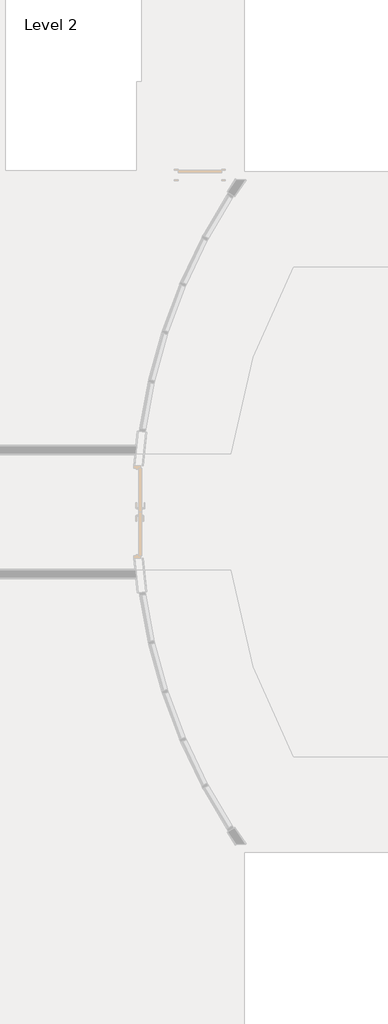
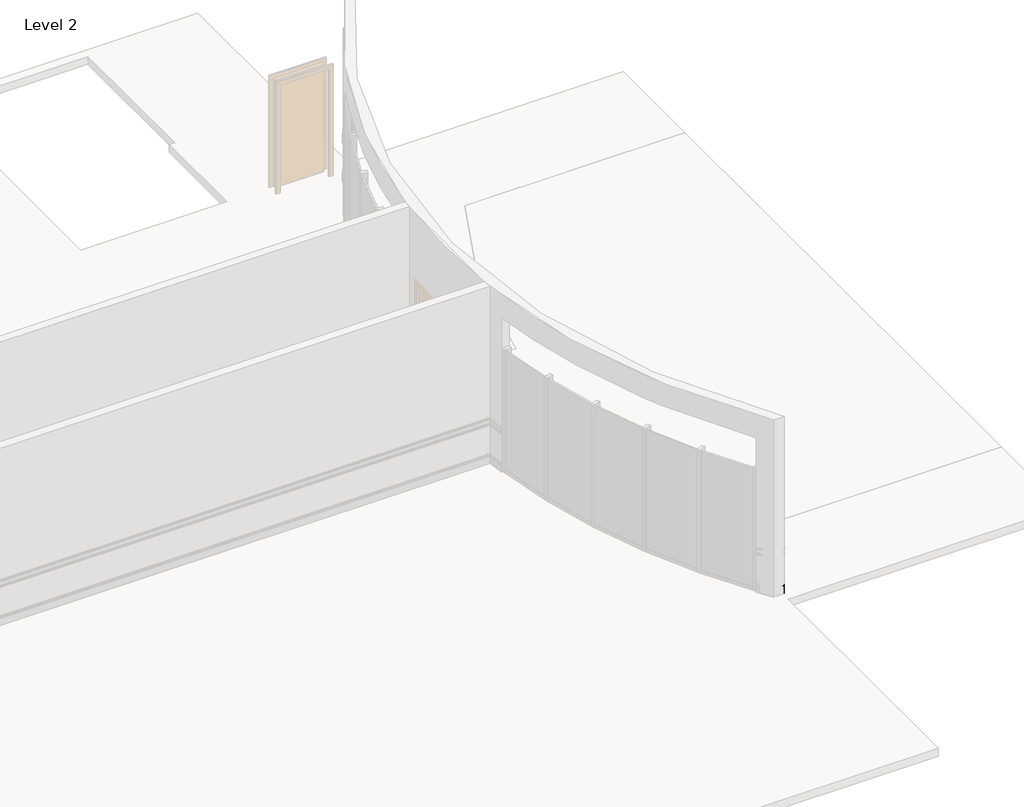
# One storey, part 8 of 14: 1 proxy.
"""IFC4 building model written with IfcOpenShell, lengths in millimetres."""

from ifc_helpers import new_model, si_unit, point, frame, origin, place, context, project, spatial, polyline, circle_curve, ellipse_curve, trimmed, element, save
from ifc_brep_helpers import plane_surface, cylinder_surface, revolved_surface, advanced_brep

model = new_model("IFC4")

# Units and contexts
model_context = context("Model", 3, world=origin())
ifc_project = project(units=[si_unit("LENGTHUNIT", "METRE", prefix="MILLI")], contexts=[model_context])

# Site, building, storey
site = spatial("IfcSite", under=ifc_project)
building = spatial("IfcBuilding", under=site)
storey = spatial("IfcBuildingStorey", under=building, Name="Level 2", Elevation=3657.6)

# Proxy
placement = place(None, origin())
element("IfcBuildingElementProxy", 1, Name="Wall Sweeps", at=placement, inside=storey, context=model_context, shape_type="AdvancedBrep", body=[
    advanced_brep(
    [(12911.1456613, 4447.8405035, 3803.65), (12911.1456613, 4447.8405035, 3657.6), (12898.1548084, 4456.9648319, 3657.6), (12898.1548084, 4456.9648319, 3683.0), (12899.4538937, 4456.0523991, 3684.5875), (12899.4538937, 4456.0523991, 3795.7125), (12898.1548084, 4456.9648319, 3797.3), (12898.1548084, 4456.9648319, 3841.75), (12903.3511495, 4453.3151006, 3841.75), (12905.3528084, 4451.9092042, 3836.0425393), (12904.2296039, 4452.6981044, 3827.5015472), (12909.8279805, 4448.7659971, 3817.4244174), (12909.0132543, 4449.3382328, 3805.438329), (12909.3500389, 4449.1016869, 3804.1164076), (12676.4060533, 4101.016326, 3803.65), (12674.5678562, 4102.214606, 3804.1164076), (12674.2230864, 4102.4393538, 3805.438329), (12675.05713, 4101.8956592, 3817.4244174), (12669.3260143, 4105.6316465, 3827.5015472), (12670.4758502, 4104.8820939, 3836.0425393), (12668.4267315, 4106.217869, 3841.75), (12663.1071836, 4109.6855643, 3841.75), (12663.1071836, 4109.6855643, 3797.3), (12664.4370706, 4108.8186405, 3795.7125), (12664.4370706, 4108.8186405, 3684.5875), (12663.1071836, 4109.6855643, 3683.0), (12663.1071836, 4109.6855643, 3657.6), (12676.4060533, 4101.016326, 3657.6)],
    [
        (0, 1),
        (1, 2),
        (2, 3),
        (3, 4),
        (4, 5),
        (5, 6),
        (6, 7),
        (7, 8),
        (8, 9),
        (9, 10, circle_curve(frame((12908.5474906, 4449.6653692, 3831.034375), z_axis=(-0.5747608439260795, -0.81832143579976, 0.0), x_axis=(0.81832143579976, -0.5747608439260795, 0.0)), 6.35)),
        (10, 11),
        (11, 12, circle_curve(frame((12903.3511495, 4453.3151006, 3812.047453), z_axis=(0.5747608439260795, 0.81832143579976, 0.0), x_axis=(0.81832143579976, -0.5747608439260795, 0.0)), 9.5684601)),
        (12, 13, circle_curve(frame((12909.4850864, 4449.0068342, 3804.8928122), z_axis=(-0.5747608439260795, -0.81832143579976, 0.0), x_axis=(0.81832143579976, -0.5747608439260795, 0.0)), 0.79375)),
        (13, 0),
        (14, 15),
        (15, 16, circle_curve(frame((12674.7061057, 4102.1244842, 3804.8928122), z_axis=(0.5460937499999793, 0.8377240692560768, 0.0), x_axis=(0.8377240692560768, -0.5460937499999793, 0.0)), 0.79375)),
        (16, 17, circle_curve(frame((12668.4267315, 4106.217869, 3812.047453), z_axis=(-0.5460937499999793, -0.8377240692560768, 0.0), x_axis=(0.8377240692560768, -0.5460937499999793, 0.0)), 9.5684601)),
        (17, 18),
        (18, 19, circle_curve(frame((12673.7462793, 4102.7501737, 3831.034375), z_axis=(0.5460937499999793, 0.8377240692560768, 0.0), x_axis=(0.8377240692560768, -0.5460937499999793, 0.0)), 6.35)),
        (19, 20),
        (20, 21),
        (21, 22),
        (22, 23),
        (23, 24),
        (24, 25),
        (25, 26),
        (26, 27),
        (27, 14),
        (27, 1, circle_curve(frame((22811.474575, -2505.8101681, 3657.6), z_axis=(0.0, 0.0, -1.0), x_axis=(-0.8183214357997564, 0.5747608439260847, 0.0)), 12098.3374999)),
        (0, 14, circle_curve(frame((22811.474575, -2505.8101681, 3803.65), z_axis=(0.0, 0.0, 1.0), x_axis=(-0.8183214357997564, 0.5747608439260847, 0.0)), 12098.3374999)),
        (26, 2, circle_curve(frame((22811.474575, -2505.8101681, 3657.6), z_axis=(0.0, 0.0, -1.0), x_axis=(-0.8183214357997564, 0.5747608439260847, 0.0)), 12114.2125)),
        (25, 3, circle_curve(frame((22811.474575, -2505.8101681, 3683.0), z_axis=(0.0, 0.0, -1.0), x_axis=(-0.8183214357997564, 0.5747608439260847, 0.0)), 12114.2125)),
        (24, 4, circle_curve(frame((22811.474575, -2505.8101681, 3684.5875), z_axis=(0.0, 0.0, -1.0), x_axis=(-0.8183214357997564, 0.5747608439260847, 0.0)), 12112.625)),
        (23, 5, circle_curve(frame((22811.474575, -2505.8101681, 3795.7125), z_axis=(0.0, 0.0, -1.0), x_axis=(-0.8183214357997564, 0.5747608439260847, 0.0)), 12112.625)),
        (22, 6, circle_curve(frame((22811.474575, -2505.8101681, 3797.3), z_axis=(0.0, 0.0, -1.0), x_axis=(-0.8183214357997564, 0.5747608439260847, 0.0)), 12114.2125)),
        (21, 7, circle_curve(frame((22811.474575, -2505.8101681, 3841.75), z_axis=(0.0, 0.0, -1.0), x_axis=(-0.8183214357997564, 0.5747608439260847, 0.0)), 12114.2125)),
        (20, 8, circle_curve(frame((22811.474575, -2505.8101681, 3841.75), z_axis=(0.0, 0.0, -1.0), x_axis=(-0.8183214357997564, 0.5747608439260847, 0.0)), 12107.8625)),
        (19, 9, circle_curve(frame((22811.474575, -2505.8101681, 3836.0425393), z_axis=(0.0, 0.0, -1.0), x_axis=(-0.8183214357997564, 0.5747608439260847, 0.0)), 12105.4164454)),
        (18, 10, circle_curve(frame((22811.474575, -2505.8101681, 3827.5015472), z_axis=(0.0, 0.0, -1.0), x_axis=(-0.8183214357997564, 0.5747608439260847, 0.0)), 12106.7890166)),
        (17, 11, circle_curve(frame((22811.474575, -2505.8101681, 3817.4244174), z_axis=(0.0, 0.0, -1.0), x_axis=(-0.8183214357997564, 0.5747608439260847, 0.0)), 12099.9477238)),
        (16, 12, circle_curve(frame((22811.474575, -2505.8101681, 3805.438329), z_axis=(0.0, 0.0, -1.0), x_axis=(-0.8183214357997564, 0.5747608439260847, 0.0)), 12100.9433304)),
        (15, 13, circle_curve(frame((22811.474575, -2505.8101681, 3804.1164076), z_axis=(0.0, 0.0, -1.0), x_axis=(-0.8183214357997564, 0.5747608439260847, 0.0)), 12100.531775)),
    ],
    [
        plane_surface(frame((22811.474575, -2505.8101681, 3657.6), z_axis=(0.5747608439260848, 0.8183214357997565, 0.0), x_axis=(-0.8183214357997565, 0.5747608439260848, 0.0))),
        plane_surface(frame((22811.474575, -2505.8101681, 3657.6), z_axis=(-0.5460937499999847, -0.8377240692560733, 0.0), x_axis=(-0.8377240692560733, 0.5460937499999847, 0.0))),
        revolved_surface(polyline([(12911.145661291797, 4447.8405034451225, 3803.65), (12911.145661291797, 4447.8405034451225, 3657.6)]), (22811.474575, -2505.8101681, 3657.6), (0.0, 0.0, 1.0)),
        plane_surface(frame((22811.474575, -2505.8101681, 3657.6), z_axis=(0.0, 0.0, -1.0000000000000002), x_axis=(-0.8183214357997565, 0.5747608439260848, 0.0))),
        cylinder_surface(frame((22811.474575, -2505.8101681, 3657.6), z_axis=(0.0, 0.0, 1.0), x_axis=(-0.8183214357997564, 0.5747608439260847, 0.0)), 12114.2125),
        revolved_surface(polyline([(12898.1548084, 4456.9648319, 3683.0), (12899.4538937, 4456.0523991, 3684.5875)]), (22811.474575, -2505.8101681, 3657.6), (0.0, 0.0, 1.0)),
        cylinder_surface(frame((22811.474575, -2505.8101681, 3657.6), z_axis=(0.0, 0.0, 1.0), x_axis=(-0.8183214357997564, 0.5747608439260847, 0.0)), 12112.625),
        revolved_surface(polyline([(12899.4538937, 4456.0523991, 3795.7125), (12898.1548084, 4456.9648319, 3797.3)]), (22811.474575, -2505.8101681, 3657.6), (0.0, 0.0, 1.0)),
        plane_surface(frame((22811.474575, -2505.8101681, 3841.75), z_axis=(0.0, 0.0, 1.0000000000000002), x_axis=(-0.8183214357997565, 0.5747608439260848, 0.0))),
        revolved_surface(polyline([(12903.3511495, 4453.3151006, 3841.75), (12905.3528084, 4451.9092042, 3836.0425393)]), (22811.474575, -2505.8101681, 3657.6), (0.0, 0.0, 1.0)),
        revolved_surface(trimmed(ellipse_curve(frame((12908.5474906, 4449.6653692, 3831.034375), z_axis=(-0.5747608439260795, -0.81832143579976, 0.0), x_axis=(0.81832143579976, -0.5747608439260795, 0.0)), 6.35, 6.35), [point((12905.3528084, 4451.9092042, 3836.0425393))], [point((12904.2296039, 4452.6981044, 3827.5015472))], True, "CARTESIAN"), (22811.474575, -2505.8101681, 3657.6), (0.0, 0.0, 1.0)),
        revolved_surface(polyline([(12904.2296039, 4452.6981044, 3827.5015472), (12909.8279805, 4448.7659971, 3817.4244174)]), (22811.474575, -2505.8101681, 3657.6), (0.0, 0.0, 1.0)),
        revolved_surface(trimmed(ellipse_curve(frame((12903.3511495, 4453.3151006, 3812.047453), z_axis=(0.5747608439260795, 0.81832143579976, 0.0), x_axis=(0.81832143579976, -0.5747608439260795, 0.0)), 9.5684601, 9.5684601), [point((12909.8279805, 4448.7659971, 3817.4244174))], [point((12909.0132543, 4449.3382328, 3805.438329))], True, "CARTESIAN"), (22811.474575, -2505.8101681, 3657.6), (0.0, 0.0, 1.0)),
        revolved_surface(trimmed(ellipse_curve(frame((12909.4850864, 4449.0068342, 3804.8928122), z_axis=(-0.5747608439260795, -0.81832143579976, 0.0), x_axis=(0.81832143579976, -0.5747608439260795, 0.0)), 0.79375, 0.79375), [point((12909.0132543, 4449.3382328, 3805.438329))], [point((12909.3500389, 4449.1016869, 3804.1164076))], True, "CARTESIAN"), (22811.474575, -2505.8101681, 3657.6), (0.0, 0.0, 1.0)),
        revolved_surface(polyline([(12909.3500389, 4449.1016869, 3804.1164076), (12911.1456613, 4447.8405035, 3803.65)]), (22811.474575, -2505.8101681, 3657.6), (0.0, 0.0, 1.0)),
    ],
    [
        (0, [[1, 2, 3, 4, 5, 6, 7, 8, 9, 10, 11, 12, 13, 14]]),
        (1, [[15, 16, 17, 18, 19, 20, 21, 22, 23, 24, 25, 26, 27, 28]]),
        (2, [[29, -1, 30, -28]]),
        (3, [[31, -2, -29, -27]]),
        (4, [[32, -3, -31, -26]]),
        (5, [[33, -4, -32, -25]]),
        (6, [[34, -5, -33, -24]]),
        (7, [[35, -6, -34, -23]]),
        (4, [[36, -7, -35, -22]]),
        (8, [[37, -8, -36, -21]]),
        (9, [[38, -9, -37, -20]]),
        (10, [[39, -10, -38, -19]]),
        (11, [[40, -11, -39, -18]]),
        (12, [[41, -12, -40, -17]]),
        (13, [[42, -13, -41, -16]]),
        (14, [[-30, -14, -42, -15]]),
    ],
),
    advanced_brep(
    [(10828.4876912, -839.1381531, 3803.65), (10828.4876912, -839.1381531, 3657.6), (10812.76405, -836.9512065, 3657.6), (10812.76405, -836.9512065, 3683.0), (10814.3364141, -837.1699011, 3684.5875), (10814.3364141, -837.1699011, 3795.7125), (10812.76405, -836.9512065, 3797.3), (10812.76405, -836.9512065, 3841.75), (10819.0535064, -837.8259851, 3841.75), (10821.4762393, -838.1629546, 3836.0425393), (10820.1167548, -837.9738686, 3827.5015472), (10826.8928198, -838.916328, 3817.4244174), (10825.9067058, -838.7791728, 3805.438329), (10826.3143372, -838.8358689, 3804.1164076), (10751.598984, -1541.8750089, 3803.65), (10749.4116847, -1541.70018, 3804.1164076), (10749.0014377, -1541.6673893, 3805.438329), (10749.9938791, -1541.7467143, 3817.4244174), (10743.1743355, -1541.2016342, 3827.5015472), (10744.5425432, -1541.3109938, 3836.0425393), (10742.1042649, -1541.1161044, 3841.75), (10735.7744522, -1540.6101681, 3841.75), (10735.7744522, -1540.6101681, 3797.3), (10737.3569053, -1540.7366522, 3795.7125), (10737.3569053, -1540.7366522, 3684.5875), (10735.7744522, -1540.6101681, 3683.0), (10735.7744522, -1540.6101681, 3657.6), (10751.598984, -1541.8750089, 3657.6)],
    [
        (0, 1),
        (1, 2),
        (2, 3),
        (3, 4),
        (4, 5),
        (5, 6),
        (6, 7),
        (7, 8),
        (8, 9),
        (9, 10, circle_curve(frame((10825.3429629, -838.7007638, 3831.034375), z_axis=(-0.1377604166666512, -0.9904655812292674, 0.0), x_axis=(0.9904655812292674, -0.1377604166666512, 0.0)), 6.35)),
        (10, 11),
        (11, 12, circle_curve(frame((10819.0535064, -837.8259851, 3812.047453), z_axis=(0.1377604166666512, 0.9904655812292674, 0.0), x_axis=(0.9904655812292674, -0.1377604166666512, 0.0)), 9.5684601)),
        (12, 13, circle_curve(frame((10826.4777936, -838.8586034, 3804.8928122), z_axis=(-0.1377604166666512, -0.9904655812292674, 0.0), x_axis=(0.9904655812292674, -0.1377604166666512, 0.0)), 0.79375)),
        (13, 0),
        (14, 15),
        (15, 16, circle_curve(frame((10749.5761899, -1541.7133287, 3804.8928122), z_axis=(0.07967500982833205, 0.9968208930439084, 0.0), x_axis=(0.9968208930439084, -0.07967500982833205, 0.0)), 0.79375)),
        (16, 17, circle_curve(frame((10742.1042649, -1541.1161044, 3812.047453), z_axis=(-0.07967500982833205, -0.9968208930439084, 0.0), x_axis=(0.9968208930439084, -0.07967500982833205, 0.0)), 9.5684601)),
        (17, 18),
        (18, 19, circle_curve(frame((10748.4340775, -1541.6220407, 3831.034375), z_axis=(0.07967500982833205, 0.9968208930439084, 0.0), x_axis=(0.9968208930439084, -0.07967500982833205, 0.0)), 6.35)),
        (19, 20),
        (20, 21),
        (21, 22),
        (22, 23),
        (23, 24),
        (24, 25),
        (25, 26),
        (26, 27),
        (27, 14),
        (27, 1, circle_curve(frame((22811.474575, -2505.8101681, 3657.6), z_axis=(0.0, 0.0, -1.0), x_axis=(-0.9904655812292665, 0.13776041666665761, 0.0)), 12098.3374999)),
        (0, 14, circle_curve(frame((22811.474575, -2505.8101681, 3803.65), z_axis=(0.0, 0.0, 1.0), x_axis=(-0.9904655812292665, 0.13776041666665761, 0.0)), 12098.3374999)),
        (26, 2, circle_curve(frame((22811.474575, -2505.8101681, 3657.6), z_axis=(0.0, 0.0, -1.0), x_axis=(-0.9904655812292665, 0.13776041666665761, 0.0)), 12114.2125)),
        (25, 3, circle_curve(frame((22811.474575, -2505.8101681, 3683.0), z_axis=(0.0, 0.0, -1.0), x_axis=(-0.9904655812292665, 0.13776041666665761, 0.0)), 12114.2125)),
        (24, 4, circle_curve(frame((22811.474575, -2505.8101681, 3684.5875), z_axis=(0.0, 0.0, -1.0), x_axis=(-0.9904655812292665, 0.13776041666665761, 0.0)), 12112.625)),
        (23, 5, circle_curve(frame((22811.474575, -2505.8101681, 3795.7125), z_axis=(0.0, 0.0, -1.0), x_axis=(-0.9904655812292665, 0.13776041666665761, 0.0)), 12112.625)),
        (22, 6, circle_curve(frame((22811.474575, -2505.8101681, 3797.3), z_axis=(0.0, 0.0, -1.0), x_axis=(-0.9904655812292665, 0.13776041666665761, 0.0)), 12114.2125)),
        (21, 7, circle_curve(frame((22811.474575, -2505.8101681, 3841.75), z_axis=(0.0, 0.0, -1.0), x_axis=(-0.9904655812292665, 0.13776041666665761, 0.0)), 12114.2125)),
        (20, 8, circle_curve(frame((22811.474575, -2505.8101681, 3841.75), z_axis=(0.0, 0.0, -1.0), x_axis=(-0.9904655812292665, 0.13776041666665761, 0.0)), 12107.8625)),
        (19, 9, circle_curve(frame((22811.474575, -2505.8101681, 3836.0425393), z_axis=(0.0, 0.0, -1.0), x_axis=(-0.9904655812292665, 0.13776041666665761, 0.0)), 12105.4164454)),
        (18, 10, circle_curve(frame((22811.474575, -2505.8101681, 3827.5015472), z_axis=(0.0, 0.0, -1.0), x_axis=(-0.9904655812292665, 0.13776041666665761, 0.0)), 12106.7890166)),
        (17, 11, circle_curve(frame((22811.474575, -2505.8101681, 3817.4244174), z_axis=(0.0, 0.0, -1.0), x_axis=(-0.9904655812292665, 0.13776041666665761, 0.0)), 12099.9477238)),
        (16, 12, circle_curve(frame((22811.474575, -2505.8101681, 3805.438329), z_axis=(0.0, 0.0, -1.0), x_axis=(-0.9904655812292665, 0.13776041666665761, 0.0)), 12100.9433304)),
        (15, 13, circle_curve(frame((22811.474575, -2505.8101681, 3804.1164076), z_axis=(0.0, 0.0, -1.0), x_axis=(-0.9904655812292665, 0.13776041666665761, 0.0)), 12100.531775)),
    ],
    [
        plane_surface(frame((22811.474575, -2505.8101681, 3657.6), z_axis=(0.13776041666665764, 0.9904655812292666, 0.0), x_axis=(-0.9904655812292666, 0.13776041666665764, 0.0))),
        plane_surface(frame((22811.474575, -2505.8101681, 3657.6), z_axis=(-0.07967500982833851, -0.996820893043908, 0.0), x_axis=(-0.996820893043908, 0.07967500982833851, 0.0))),
        revolved_surface(polyline([(10828.487691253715, -839.138153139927, 3803.65), (10828.487691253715, -839.138153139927, 3657.6)]), (22811.474575, -2505.8101681, 3657.6), (0.0, 0.0, 1.0)),
        plane_surface(frame((22811.474575, -2505.8101681, 3657.6), z_axis=(0.0, 0.0, -1.0000000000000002), x_axis=(-0.9904655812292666, 0.13776041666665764, 0.0))),
        cylinder_surface(frame((22811.474575, -2505.8101681, 3657.6), z_axis=(0.0, 0.0, 1.0), x_axis=(-0.9904655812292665, 0.13776041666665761, 0.0)), 12114.2125),
        revolved_surface(polyline([(10812.76405, -836.9512065, 3683.0), (10814.3364141, -837.1699011, 3684.5875)]), (22811.474575, -2505.8101681, 3657.6), (0.0, 0.0, 1.0)),
        cylinder_surface(frame((22811.474575, -2505.8101681, 3657.6), z_axis=(0.0, 0.0, 1.0), x_axis=(-0.9904655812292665, 0.13776041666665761, 0.0)), 12112.625),
        revolved_surface(polyline([(10814.3364141, -837.1699011, 3795.7125), (10812.76405, -836.9512065, 3797.3)]), (22811.474575, -2505.8101681, 3657.6), (0.0, 0.0, 1.0)),
        plane_surface(frame((22811.474575, -2505.8101681, 3841.75), z_axis=(0.0, 0.0, 1.0000000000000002), x_axis=(-0.9904655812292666, 0.13776041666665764, 0.0))),
        revolved_surface(polyline([(10819.0535064, -837.8259851, 3841.75), (10821.4762393, -838.1629546, 3836.0425393)]), (22811.474575, -2505.8101681, 3657.6), (0.0, 0.0, 1.0)),
        revolved_surface(trimmed(ellipse_curve(frame((10825.3429629, -838.7007638, 3831.034375), z_axis=(-0.1377604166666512, -0.9904655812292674, 0.0), x_axis=(0.9904655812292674, -0.1377604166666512, 0.0)), 6.35, 6.35), [point((10821.4762393, -838.1629546, 3836.0425393))], [point((10820.1167548, -837.9738686, 3827.5015472))], True, "CARTESIAN"), (22811.474575, -2505.8101681, 3657.6), (0.0, 0.0, 1.0)),
        revolved_surface(polyline([(10820.1167548, -837.9738686, 3827.5015472), (10826.8928198, -838.916328, 3817.4244174)]), (22811.474575, -2505.8101681, 3657.6), (0.0, 0.0, 1.0)),
        revolved_surface(trimmed(ellipse_curve(frame((10819.0535064, -837.8259851, 3812.047453), z_axis=(0.1377604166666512, 0.9904655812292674, 0.0), x_axis=(0.9904655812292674, -0.1377604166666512, 0.0)), 9.5684601, 9.5684601), [point((10826.8928198, -838.916328, 3817.4244174))], [point((10825.9067058, -838.7791728, 3805.438329))], True, "CARTESIAN"), (22811.474575, -2505.8101681, 3657.6), (0.0, 0.0, 1.0)),
        revolved_surface(trimmed(ellipse_curve(frame((10826.4777936, -838.8586034, 3804.8928122), z_axis=(-0.1377604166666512, -0.9904655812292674, 0.0), x_axis=(0.9904655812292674, -0.1377604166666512, 0.0)), 0.79375, 0.79375), [point((10825.9067058, -838.7791728, 3805.438329))], [point((10826.3143372, -838.8358689, 3804.1164076))], True, "CARTESIAN"), (22811.474575, -2505.8101681, 3657.6), (0.0, 0.0, 1.0)),
        revolved_surface(polyline([(10826.3143372, -838.8358689, 3804.1164076), (10828.4876912, -839.1381531, 3803.65)]), (22811.474575, -2505.8101681, 3657.6), (0.0, 0.0, 1.0)),
    ],
    [
        (0, [[1, 2, 3, 4, 5, 6, 7, 8, 9, 10, 11, 12, 13, 14]]),
        (1, [[15, 16, 17, 18, 19, 20, 21, 22, 23, 24, 25, 26, 27, 28]]),
        (2, [[29, -1, 30, -28]]),
        (3, [[31, -2, -29, -27]]),
        (4, [[32, -3, -31, -26]]),
        (5, [[33, -4, -32, -25]]),
        (6, [[34, -5, -33, -24]]),
        (7, [[35, -6, -34, -23]]),
        (4, [[36, -7, -35, -22]]),
        (8, [[37, -8, -36, -21]]),
        (9, [[38, -9, -37, -20]]),
        (10, [[39, -10, -38, -19]]),
        (11, [[40, -11, -39, -18]]),
        (12, [[41, -12, -40, -17]]),
        (13, [[42, -13, -41, -16]]),
        (14, [[-30, -14, -42, -15]]),
    ],
),
    advanced_brep(
    [(10751.598984, -3469.7453273, 3803.65), (10751.598984, -3469.7453273, 3657.6), (10735.7744522, -3471.0101681, 3657.6), (10735.7744522, -3471.0101681, 3683.0), (10737.3569053, -3470.883684, 3684.5875), (10737.3569053, -3470.883684, 3795.7125), (10735.7744522, -3471.0101681, 3797.3), (10735.7744522, -3471.0101681, 3841.75), (10742.1042649, -3470.5042318, 3841.75), (10744.5425432, -3470.3093423, 3836.0425393), (10743.1743355, -3470.418702, 3827.5015472), (10749.9938791, -3469.8736219, 3817.4244174), (10749.0014377, -3469.9529469, 3805.438329), (10749.4116847, -3469.9201562, 3804.1164076), (10828.4876912, -4172.482183, 3803.65), (10826.3143372, -4172.7844673, 3804.1164076), (10825.9067058, -4172.8411633, 3805.438329), (10826.8928198, -4172.7040082, 3817.4244174), (10820.1167548, -4173.6464675, 3827.5015472), (10821.4762393, -4173.4573815, 3836.0425393), (10819.0535064, -4173.794351, 3841.75), (10812.76405, -4174.6691297, 3841.75), (10812.76405, -4174.6691297, 3797.3), (10814.3364141, -4174.450435, 3795.7125), (10814.3364141, -4174.450435, 3684.5875), (10812.76405, -4174.6691297, 3683.0), (10812.76405, -4174.6691297, 3657.6), (10828.4876912, -4172.482183, 3657.6)],
    [
        (0, 1),
        (1, 2),
        (2, 3),
        (3, 4),
        (4, 5),
        (5, 6),
        (6, 7),
        (7, 8),
        (8, 9),
        (9, 10, circle_curve(frame((10748.4340775, -3469.9982954, 3831.034375), z_axis=(0.07967500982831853, -0.9968208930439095, 0.0), x_axis=(0.9968208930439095, 0.07967500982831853, 0.0)), 6.35)),
        (10, 11),
        (11, 12, circle_curve(frame((10742.1042649, -3470.5042318, 3812.047453), z_axis=(-0.07967500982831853, 0.9968208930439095, 0.0), x_axis=(0.9968208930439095, 0.07967500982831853, 0.0)), 9.5684601)),
        (12, 13, circle_curve(frame((10749.5761899, -3469.9070074, 3804.8928122), z_axis=(0.07967500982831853, -0.9968208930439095, 0.0), x_axis=(0.9968208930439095, 0.07967500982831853, 0.0)), 0.79375)),
        (13, 0),
        (14, 15),
        (15, 16, circle_curve(frame((10826.4777936, -4172.7617327, 3804.8928122), z_axis=(-0.13776041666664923, 0.9904655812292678, 0.0), x_axis=(0.9904655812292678, 0.13776041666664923, 0.0)), 0.79375)),
        (16, 17, circle_curve(frame((10819.0535064, -4173.794351, 3812.047453), z_axis=(0.13776041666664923, -0.9904655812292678, 0.0), x_axis=(0.9904655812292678, 0.13776041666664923, 0.0)), 9.5684601)),
        (17, 18),
        (18, 19, circle_curve(frame((10825.3429629, -4172.9195724, 3831.034375), z_axis=(-0.13776041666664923, 0.9904655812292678, 0.0), x_axis=(0.9904655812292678, 0.13776041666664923, 0.0)), 6.35)),
        (19, 20),
        (20, 21),
        (21, 22),
        (22, 23),
        (23, 24),
        (24, 25),
        (25, 26),
        (26, 27),
        (27, 14),
        (27, 1, circle_curve(frame((22811.474575, -2505.8101681, 3657.6), z_axis=(0.0, 0.0, -1.0), x_axis=(-0.9968208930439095, -0.07967500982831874, 0.0)), 12098.3374999)),
        (0, 14, circle_curve(frame((22811.474575, -2505.8101681, 3803.65), z_axis=(0.0, 0.0, 1.0), x_axis=(-0.9968208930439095, -0.07967500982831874, 0.0)), 12098.3374999)),
        (26, 2, circle_curve(frame((22811.474575, -2505.8101681, 3657.6), z_axis=(0.0, 0.0, -1.0), x_axis=(-0.9968208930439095, -0.07967500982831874, 0.0)), 12114.2125)),
        (25, 3, circle_curve(frame((22811.474575, -2505.8101681, 3683.0), z_axis=(0.0, 0.0, -1.0), x_axis=(-0.9968208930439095, -0.07967500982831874, 0.0)), 12114.2125)),
        (24, 4, circle_curve(frame((22811.474575, -2505.8101681, 3684.5875), z_axis=(0.0, 0.0, -1.0), x_axis=(-0.9968208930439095, -0.07967500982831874, 0.0)), 12112.625)),
        (23, 5, circle_curve(frame((22811.474575, -2505.8101681, 3795.7125), z_axis=(0.0, 0.0, -1.0), x_axis=(-0.9968208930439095, -0.07967500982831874, 0.0)), 12112.625)),
        (22, 6, circle_curve(frame((22811.474575, -2505.8101681, 3797.3), z_axis=(0.0, 0.0, -1.0), x_axis=(-0.9968208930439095, -0.07967500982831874, 0.0)), 12114.2125)),
        (21, 7, circle_curve(frame((22811.474575, -2505.8101681, 3841.75), z_axis=(0.0, 0.0, -1.0), x_axis=(-0.9968208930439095, -0.07967500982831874, 0.0)), 12114.2125)),
        (20, 8, circle_curve(frame((22811.474575, -2505.8101681, 3841.75), z_axis=(0.0, 0.0, -1.0), x_axis=(-0.9968208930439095, -0.07967500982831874, 0.0)), 12107.8625)),
        (19, 9, circle_curve(frame((22811.474575, -2505.8101681, 3836.0425393), z_axis=(0.0, 0.0, -1.0), x_axis=(-0.9968208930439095, -0.07967500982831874, 0.0)), 12105.4164454)),
        (18, 10, circle_curve(frame((22811.474575, -2505.8101681, 3827.5015472), z_axis=(0.0, 0.0, -1.0), x_axis=(-0.9968208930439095, -0.07967500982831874, 0.0)), 12106.7890166)),
        (17, 11, circle_curve(frame((22811.474575, -2505.8101681, 3817.4244174), z_axis=(0.0, 0.0, -1.0), x_axis=(-0.9968208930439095, -0.07967500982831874, 0.0)), 12099.9477238)),
        (16, 12, circle_curve(frame((22811.474575, -2505.8101681, 3805.438329), z_axis=(0.0, 0.0, -1.0), x_axis=(-0.9968208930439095, -0.07967500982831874, 0.0)), 12100.9433304)),
        (15, 13, circle_curve(frame((22811.474575, -2505.8101681, 3804.1164076), z_axis=(0.0, 0.0, -1.0), x_axis=(-0.9968208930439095, -0.07967500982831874, 0.0)), 12100.531775)),
    ],
    [
        plane_surface(frame((22811.474575, -2505.8101681, 3657.6), z_axis=(-0.07967500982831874, 0.9968208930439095, 0.0), x_axis=(-0.9968208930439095, -0.07967500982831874, 0.0))),
        plane_surface(frame((22811.474575, -2505.8101681, 3657.6), z_axis=(0.13776041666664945, -0.9904655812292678, 0.0), x_axis=(-0.9904655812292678, -0.13776041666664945, 0.0))),
        revolved_surface(polyline([(10751.598984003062, -3469.7453273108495, 3803.65), (10751.598984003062, -3469.7453273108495, 3657.6)]), (22811.474575, -2505.8101681, 3657.6), (0.0, 0.0, 1.0)),
        plane_surface(frame((22811.474575, -2505.8101681, 3657.6), z_axis=(0.0, 0.0, -1.0), x_axis=(-0.9968208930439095, -0.07967500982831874, 0.0))),
        cylinder_surface(frame((22811.474575, -2505.8101681, 3657.6), z_axis=(0.0, 0.0, 1.0), x_axis=(-0.9968208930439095, -0.07967500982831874, 0.0)), 12114.2125),
        revolved_surface(polyline([(10735.7744522, -3471.0101681, 3683.0), (10737.3569053, -3470.883684, 3684.5875)]), (22811.474575, -2505.8101681, 3657.6), (0.0, 0.0, 1.0)),
        cylinder_surface(frame((22811.474575, -2505.8101681, 3657.6), z_axis=(0.0, 0.0, 1.0), x_axis=(-0.9968208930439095, -0.07967500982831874, 0.0)), 12112.625),
        revolved_surface(polyline([(10737.3569053, -3470.883684, 3795.7125), (10735.7744522, -3471.0101681, 3797.3)]), (22811.474575, -2505.8101681, 3657.6), (0.0, 0.0, 1.0)),
        plane_surface(frame((22811.474575, -2505.8101681, 3841.75), z_axis=(0.0, 0.0, 1.0), x_axis=(-0.9968208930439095, -0.07967500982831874, 0.0))),
        revolved_surface(polyline([(10742.1042649, -3470.5042318, 3841.75), (10744.5425432, -3470.3093423, 3836.0425393)]), (22811.474575, -2505.8101681, 3657.6), (0.0, 0.0, 1.0)),
        revolved_surface(trimmed(ellipse_curve(frame((10748.4340775, -3469.9982954, 3831.034375), z_axis=(0.07967500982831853, -0.9968208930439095, 0.0), x_axis=(0.9968208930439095, 0.07967500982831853, 0.0)), 6.35, 6.35), [point((10744.5425432, -3470.3093423, 3836.0425393))], [point((10743.1743355, -3470.418702, 3827.5015472))], True, "CARTESIAN"), (22811.474575, -2505.8101681, 3657.6), (0.0, 0.0, 1.0)),
        revolved_surface(polyline([(10743.1743355, -3470.418702, 3827.5015472), (10749.9938791, -3469.8736219, 3817.4244174)]), (22811.474575, -2505.8101681, 3657.6), (0.0, 0.0, 1.0)),
        revolved_surface(trimmed(ellipse_curve(frame((10742.1042649, -3470.5042318, 3812.047453), z_axis=(-0.07967500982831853, 0.9968208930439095, 0.0), x_axis=(0.9968208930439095, 0.07967500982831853, 0.0)), 9.5684601, 9.5684601), [point((10749.9938791, -3469.8736219, 3817.4244174))], [point((10749.0014377, -3469.9529469, 3805.438329))], True, "CARTESIAN"), (22811.474575, -2505.8101681, 3657.6), (0.0, 0.0, 1.0)),
        revolved_surface(trimmed(ellipse_curve(frame((10749.5761899, -3469.9070074, 3804.8928122), z_axis=(0.07967500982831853, -0.9968208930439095, 0.0), x_axis=(0.9968208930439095, 0.07967500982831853, 0.0)), 0.79375, 0.79375), [point((10749.0014377, -3469.9529469, 3805.438329))], [point((10749.4116847, -3469.9201562, 3804.1164076))], True, "CARTESIAN"), (22811.474575, -2505.8101681, 3657.6), (0.0, 0.0, 1.0)),
        revolved_surface(polyline([(10749.4116847, -3469.9201562, 3804.1164076), (10751.598984, -3469.7453273, 3803.65)]), (22811.474575, -2505.8101681, 3657.6), (0.0, 0.0, 1.0)),
    ],
    [
        (0, [[1, 2, 3, 4, 5, 6, 7, 8, 9, 10, 11, 12, 13, 14]]),
        (1, [[15, 16, 17, 18, 19, 20, 21, 22, 23, 24, 25, 26, 27, 28]]),
        (2, [[29, -1, 30, -28]]),
        (3, [[31, -2, -29, -27]]),
        (4, [[32, -3, -31, -26]]),
        (5, [[33, -4, -32, -25]]),
        (6, [[34, -5, -33, -24]]),
        (7, [[35, -6, -34, -23]]),
        (4, [[36, -7, -35, -22]]),
        (8, [[37, -8, -36, -21]]),
        (9, [[38, -9, -37, -20]]),
        (10, [[39, -10, -38, -19]]),
        (11, [[40, -11, -39, -18]]),
        (12, [[41, -12, -40, -17]]),
        (13, [[42, -13, -41, -16]]),
        (14, [[-30, -14, -42, -15]]),
    ],
),
    advanced_brep(
    [(12676.4060533, -9112.6366621, 3803.65), (12676.4060533, -9112.6366621, 3657.6), (12663.1071836, -9121.3059005, 3657.6), (12663.1071836, -9121.3059005, 3683.0), (12664.4370706, -9120.4389767, 3684.5875), (12664.4370706, -9120.4389767, 3795.7125), (12663.1071836, -9121.3059005, 3797.3), (12663.1071836, -9121.3059005, 3841.75), (12668.4267315, -9117.8382052, 3841.75), (12670.4758502, -9116.5024301, 3836.0425393), (12669.3260143, -9117.2519826, 3827.5015472), (12675.05713, -9113.5159954, 3817.4244174), (12674.2230864, -9114.0596899, 3805.438329), (12674.5678562, -9113.8349421, 3804.1164076), (12911.1456613, -9459.4608396, 3803.65), (12909.3500389, -9460.722023, 3804.1164076), (12909.0132543, -9460.9585689, 3805.438329), (12909.8279805, -9460.3863333, 3817.4244174), (12904.2296039, -9464.3184405, 3827.5015472), (12905.3528084, -9463.5295403, 3836.0425393), (12903.3511495, -9464.9354367, 3841.75), (12898.1548084, -9468.5851681, 3841.75), (12898.1548084, -9468.5851681, 3797.3), (12899.4538937, -9467.6727352, 3795.7125), (12899.4538937, -9467.6727352, 3684.5875), (12898.1548084, -9468.5851681, 3683.0), (12898.1548084, -9468.5851681, 3657.6), (12911.1456613, -9459.4608396, 3657.6)],
    [
        (0, 1),
        (1, 2),
        (2, 3),
        (3, 4),
        (4, 5),
        (5, 6),
        (6, 7),
        (7, 8),
        (8, 9),
        (9, 10, circle_curve(frame((12673.7462793, -9114.3705099, 3831.034375), z_axis=(0.5460937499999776, -0.8377240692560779, 0.0), x_axis=(0.8377240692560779, 0.5460937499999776, 0.0)), 6.35)),
        (10, 11),
        (11, 12, circle_curve(frame((12668.4267315, -9117.8382052, 3812.047453), z_axis=(-0.5460937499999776, 0.8377240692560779, 0.0), x_axis=(0.8377240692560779, 0.5460937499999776, 0.0)), 9.5684601)),
        (12, 13, circle_curve(frame((12674.7061057, -9113.7448203, 3804.8928122), z_axis=(0.5460937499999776, -0.8377240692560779, 0.0), x_axis=(0.8377240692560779, 0.5460937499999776, 0.0)), 0.79375)),
        (13, 0),
        (14, 15),
        (15, 16, circle_curve(frame((12909.4850864, -9460.6271703, 3804.8928122), z_axis=(-0.574760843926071, 0.818321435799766, 0.0), x_axis=(0.818321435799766, 0.574760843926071, 0.0)), 0.79375)),
        (16, 17, circle_curve(frame((12903.3511495, -9464.9354367, 3812.047453), z_axis=(0.574760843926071, -0.818321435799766, 0.0), x_axis=(0.818321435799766, 0.574760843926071, 0.0)), 9.5684601)),
        (17, 18),
        (18, 19, circle_curve(frame((12908.5474906, -9461.2857054, 3831.034375), z_axis=(-0.574760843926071, 0.818321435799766, 0.0), x_axis=(0.818321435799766, 0.574760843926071, 0.0)), 6.35)),
        (19, 20),
        (20, 21),
        (21, 22),
        (22, 23),
        (23, 24),
        (24, 25),
        (25, 26),
        (26, 27),
        (27, 14),
        (27, 1, circle_curve(frame((22811.474575, -2505.8101681, 3657.6), z_axis=(0.0, 0.0, -1.0), x_axis=(-0.8377240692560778, -0.5460937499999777, 0.0)), 12098.3374999)),
        (0, 14, circle_curve(frame((22811.474575, -2505.8101681, 3803.65), z_axis=(0.0, 0.0, 1.0), x_axis=(-0.8377240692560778, -0.5460937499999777, 0.0)), 12098.3374999)),
        (26, 2, circle_curve(frame((22811.474575, -2505.8101681, 3657.6), z_axis=(0.0, 0.0, -1.0), x_axis=(-0.8377240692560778, -0.5460937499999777, 0.0)), 12114.2125)),
        (25, 3, circle_curve(frame((22811.474575, -2505.8101681, 3683.0), z_axis=(0.0, 0.0, -1.0), x_axis=(-0.8377240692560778, -0.5460937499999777, 0.0)), 12114.2125)),
        (24, 4, circle_curve(frame((22811.474575, -2505.8101681, 3684.5875), z_axis=(0.0, 0.0, -1.0), x_axis=(-0.8377240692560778, -0.5460937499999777, 0.0)), 12112.625)),
        (23, 5, circle_curve(frame((22811.474575, -2505.8101681, 3795.7125), z_axis=(0.0, 0.0, -1.0), x_axis=(-0.8377240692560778, -0.5460937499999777, 0.0)), 12112.625)),
        (22, 6, circle_curve(frame((22811.474575, -2505.8101681, 3797.3), z_axis=(0.0, 0.0, -1.0), x_axis=(-0.8377240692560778, -0.5460937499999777, 0.0)), 12114.2125)),
        (21, 7, circle_curve(frame((22811.474575, -2505.8101681, 3841.75), z_axis=(0.0, 0.0, -1.0), x_axis=(-0.8377240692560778, -0.5460937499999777, 0.0)), 12114.2125)),
        (20, 8, circle_curve(frame((22811.474575, -2505.8101681, 3841.75), z_axis=(0.0, 0.0, -1.0), x_axis=(-0.8377240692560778, -0.5460937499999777, 0.0)), 12107.8625)),
        (19, 9, circle_curve(frame((22811.474575, -2505.8101681, 3836.0425393), z_axis=(0.0, 0.0, -1.0), x_axis=(-0.8377240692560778, -0.5460937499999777, 0.0)), 12105.4164454)),
        (18, 10, circle_curve(frame((22811.474575, -2505.8101681, 3827.5015472), z_axis=(0.0, 0.0, -1.0), x_axis=(-0.8377240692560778, -0.5460937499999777, 0.0)), 12106.7890166)),
        (17, 11, circle_curve(frame((22811.474575, -2505.8101681, 3817.4244174), z_axis=(0.0, 0.0, -1.0), x_axis=(-0.8377240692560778, -0.5460937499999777, 0.0)), 12099.9477238)),
        (16, 12, circle_curve(frame((22811.474575, -2505.8101681, 3805.438329), z_axis=(0.0, 0.0, -1.0), x_axis=(-0.8377240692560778, -0.5460937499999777, 0.0)), 12100.9433304)),
        (15, 13, circle_curve(frame((22811.474575, -2505.8101681, 3804.1164076), z_axis=(0.0, 0.0, -1.0), x_axis=(-0.8377240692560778, -0.5460937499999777, 0.0)), 12100.531775)),
    ],
    [
        plane_surface(frame((22811.474575, -2505.8101681, 3657.6), z_axis=(-0.5460937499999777, 0.8377240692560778, 0.0), x_axis=(-0.8377240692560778, -0.5460937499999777, 0.0))),
        plane_surface(frame((22811.474575, -2505.8101681, 3657.6), z_axis=(0.5747608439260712, -0.818321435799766, 0.0), x_axis=(-0.818321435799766, -0.5747608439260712, 0.0))),
        revolved_surface(polyline([(12676.406053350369, -9112.636662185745, 3803.65), (12676.406053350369, -9112.636662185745, 3657.6)]), (22811.474575, -2505.8101681, 3657.6), (0.0, 0.0, 1.0)),
        plane_surface(frame((22811.474575, -2505.8101681, 3657.6), z_axis=(0.0, 0.0, -1.0), x_axis=(-0.8377240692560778, -0.5460937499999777, 0.0))),
        cylinder_surface(frame((22811.474575, -2505.8101681, 3657.6), z_axis=(0.0, 0.0, 1.0), x_axis=(-0.8377240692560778, -0.5460937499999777, 0.0)), 12114.2125),
        revolved_surface(polyline([(12663.1071836, -9121.3059005, 3683.0), (12664.4370706, -9120.4389767, 3684.5875)]), (22811.474575, -2505.8101681, 3657.6), (0.0, 0.0, 1.0)),
        cylinder_surface(frame((22811.474575, -2505.8101681, 3657.6), z_axis=(0.0, 0.0, 1.0), x_axis=(-0.8377240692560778, -0.5460937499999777, 0.0)), 12112.625),
        revolved_surface(polyline([(12664.4370706, -9120.4389767, 3795.7125), (12663.1071836, -9121.3059005, 3797.3)]), (22811.474575, -2505.8101681, 3657.6), (0.0, 0.0, 1.0)),
        plane_surface(frame((22811.474575, -2505.8101681, 3841.75), z_axis=(0.0, 0.0, 1.0), x_axis=(-0.8377240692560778, -0.5460937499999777, 0.0))),
        revolved_surface(polyline([(12668.4267315, -9117.8382052, 3841.75), (12670.4758502, -9116.5024301, 3836.0425393)]), (22811.474575, -2505.8101681, 3657.6), (0.0, 0.0, 1.0)),
        revolved_surface(trimmed(ellipse_curve(frame((12673.7462793, -9114.3705099, 3831.034375), z_axis=(0.5460937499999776, -0.8377240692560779, 0.0), x_axis=(0.8377240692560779, 0.5460937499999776, 0.0)), 6.35, 6.35), [point((12670.4758502, -9116.5024301, 3836.0425393))], [point((12669.3260143, -9117.2519826, 3827.5015472))], True, "CARTESIAN"), (22811.474575, -2505.8101681, 3657.6), (0.0, 0.0, 1.0)),
        revolved_surface(polyline([(12669.3260143, -9117.2519826, 3827.5015472), (12675.05713, -9113.5159954, 3817.4244174)]), (22811.474575, -2505.8101681, 3657.6), (0.0, 0.0, 1.0)),
        revolved_surface(trimmed(ellipse_curve(frame((12668.4267315, -9117.8382052, 3812.047453), z_axis=(-0.5460937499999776, 0.8377240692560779, 0.0), x_axis=(0.8377240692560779, 0.5460937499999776, 0.0)), 9.5684601, 9.5684601), [point((12675.05713, -9113.5159954, 3817.4244174))], [point((12674.2230864, -9114.0596899, 3805.438329))], True, "CARTESIAN"), (22811.474575, -2505.8101681, 3657.6), (0.0, 0.0, 1.0)),
        revolved_surface(trimmed(ellipse_curve(frame((12674.7061057, -9113.7448203, 3804.8928122), z_axis=(0.5460937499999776, -0.8377240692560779, 0.0), x_axis=(0.8377240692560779, 0.5460937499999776, 0.0)), 0.79375, 0.79375), [point((12674.2230864, -9114.0596899, 3805.438329))], [point((12674.5678562, -9113.8349421, 3804.1164076))], True, "CARTESIAN"), (22811.474575, -2505.8101681, 3657.6), (0.0, 0.0, 1.0)),
        revolved_surface(polyline([(12674.5678562, -9113.8349421, 3804.1164076), (12676.4060533, -9112.6366621, 3803.65)]), (22811.474575, -2505.8101681, 3657.6), (0.0, 0.0, 1.0)),
    ],
    [
        (0, [[1, 2, 3, 4, 5, 6, 7, 8, 9, 10, 11, 12, 13, 14]]),
        (1, [[15, 16, 17, 18, 19, 20, 21, 22, 23, 24, 25, 26, 27, 28]]),
        (2, [[29, -1, 30, -28]]),
        (3, [[31, -2, -29, -27]]),
        (4, [[32, -3, -31, -26]]),
        (5, [[33, -4, -32, -25]]),
        (6, [[34, -5, -33, -24]]),
        (7, [[35, -6, -34, -23]]),
        (4, [[36, -7, -35, -22]]),
        (8, [[37, -8, -36, -21]]),
        (9, [[38, -9, -37, -20]]),
        (10, [[39, -10, -38, -19]]),
        (11, [[40, -11, -39, -18]]),
        (12, [[41, -12, -40, -17]]),
        (13, [[42, -13, -41, -16]]),
        (14, [[-30, -14, -42, -15]]),
    ],
),
])

save(model, "model.ifc")
